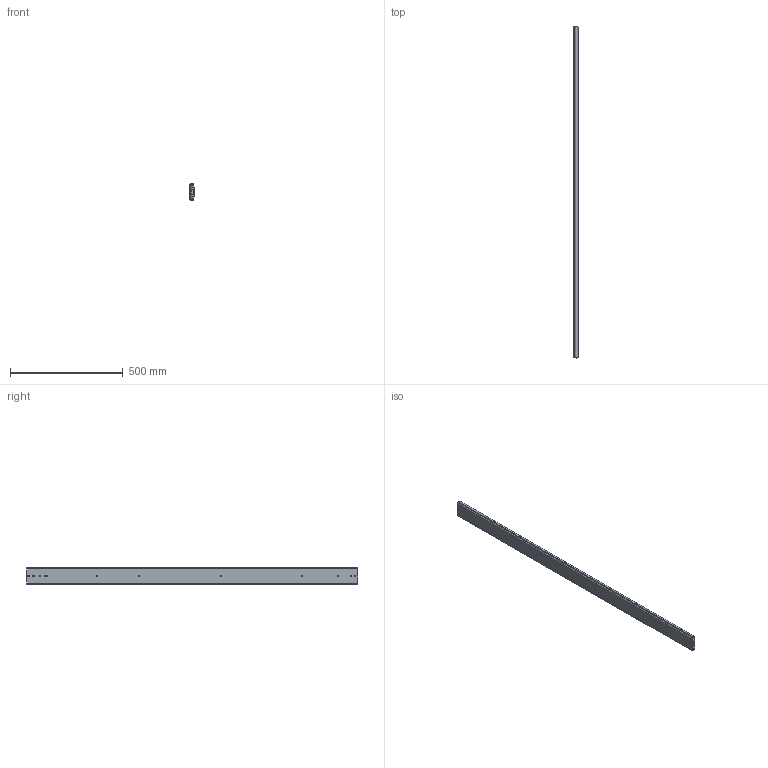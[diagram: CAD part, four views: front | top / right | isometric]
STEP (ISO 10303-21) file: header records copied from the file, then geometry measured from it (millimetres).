
FILE_DESCRIPTION(/* description */ ('Unknown'),/* implementation_level */ '2;1');
FILE_NAME(/* name */ '76J01-58 close',/* time_stamp */ '2024-07-30T13:14:58+08:00',/* author */ ('Unknown'),/* organization */ ('Unknown'),/* preprocessor_version */ 'ST-DEVELOPER v18.104',/* originating_system */ 'Solid Edge',/* authorisation */ 'Unknown');
FILE_SCHEMA (('AUTOMOTIVE_DESIGN {1 0 10303 214 3 1 1}'));
Length unit declared in the file: millimetre
Products named in the file (4): 76J01-58 close; 76J01 58 inch 內; 76J01 58 吋
Assembly tree (3 placements, depth 2):
  76J01-58 close
    76J01 58 inch 內
    76J01 58 吋
    76J01 58 吋
Bounding box: 19.3 x 1473.2 x 76.76 mm (x, y, z)
Volume: 1164856.8 mm3; surface area: 724061.8 mm2
Topology: 3 solids, 3 shells, 196 faces, 606 edges, 410 vertices
Faces by surface type: plane 104, cylinder 92
Full cylindrical faces by diameter (mm): 5.2 x16, 7.1 x2
Entity records: 7179 total; most frequent: CARTESIAN_POINT 1168, DIRECTION 1152, ORIENTED_EDGE 1140, EDGE_CURVE 570, VERTEX_POINT 392, LINE 384, VECTOR 384, AXIS2_PLACEMENT_3D 384
